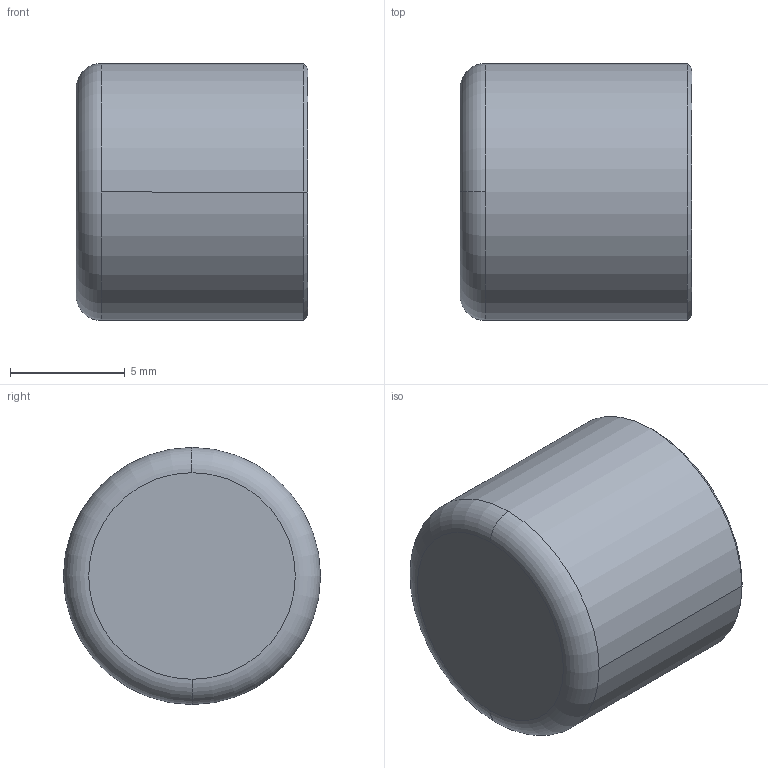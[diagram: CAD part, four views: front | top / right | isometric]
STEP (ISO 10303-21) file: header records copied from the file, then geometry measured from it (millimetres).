
FILE_DESCRIPTION((''),'2;1');
FILE_NAME('C:\sanha_work\5130\f\530110.stp','2005-10-21T18:20:01',('Kris'),(''),'Autodesk Inventor 8','Autodesk Inventor 8','');
FILE_SCHEMA(('AUTOMOTIVE_DESIGN { 1 0 10303 214 1 1 1 1 }'));
Length unit declared in the file: millimetre
Products named in the file (1): 530110
Bounding box: 10.1 x 11.2 x 11.2 mm (x, y, z)
Volume: 240.5 mm3; surface area: 819.1 mm2
Topology: 1 solids, 1 shells, 15 faces, 34 edges, 22 vertices
Faces by surface type: torus 4, cylinder 4, cone 4, plane 3
Entity records: 461 total; most frequent: DIRECTION 92, CARTESIAN_POINT 72, ORIENTED_EDGE 68, AXIS2_PLACEMENT_3D 42, EDGE_CURVE 34, CIRCLE 26, VERTEX_POINT 22, EDGE_LOOP 16
